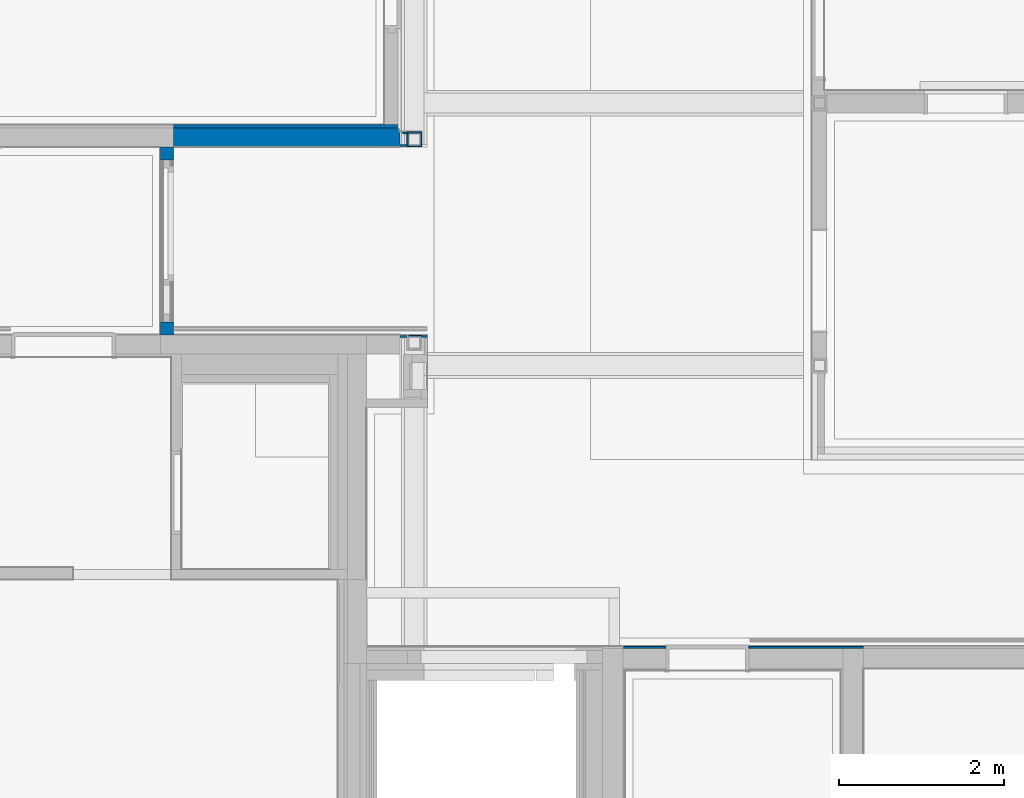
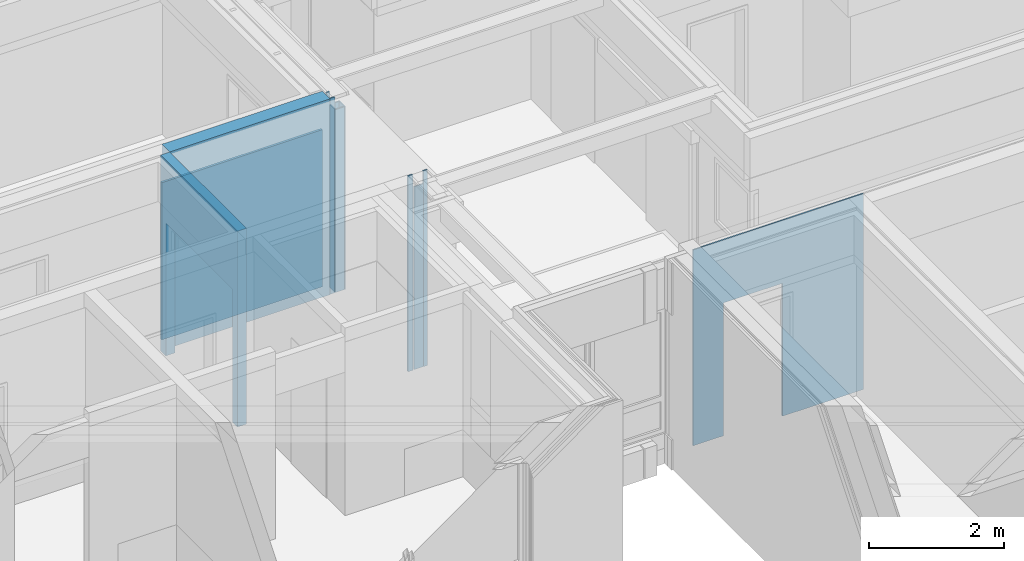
# One storey, part 22 of 222: 13 walls, 2 openings.
"""IFC4 building model written with IfcOpenShell, lengths in metres."""

from ifc_helpers import new_model, entity, si_unit, converted_unit, derived_unit, frame, frame_2d, origin, origin_with_axes, place, context, subcontext, project, spatial, polyline, rectangle, outline, extrude, material, element, save


model = new_model("IFC4")

# Units and contexts
model_context = context("Model", 3, precision=1e-05, world=origin())
body_context = subcontext(model_context, "Body", "Model", "MODEL_VIEW")
ifc_project = project(units=[si_unit("LENGTHUNIT", "METRE"), si_unit("AREAUNIT", "SQUARE_METRE"), si_unit("VOLUMEUNIT", "CUBIC_METRE"), si_unit("MASSUNIT", "GRAM", prefix="KILO"), converted_unit("PLANEANGLEUNIT", "DEGREE", entity("IfcPlaneAngleMeasure", 0.0174532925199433), si_unit("PLANEANGLEUNIT", "RADIAN"), dimensions=[0, 0, 0, 0, 0, 0, 0]), derived_unit("THERMALTRANSMITTANCEUNIT", [(si_unit("POWERUNIT", "WATT"), 1), (si_unit("THERMODYNAMICTEMPERATUREUNIT", "KELVIN"), -1), (si_unit("LENGTHUNIT", "METRE"), -2)]), derived_unit("VOLUMETRICFLOWRATEUNIT", [(si_unit("LENGTHUNIT", "METRE"), 3), (converted_unit("TIMEUNIT", "hour", entity("IfcTimeMeasure", 3600.0), si_unit("TIMEUNIT", "SECOND"), dimensions=[0, 0, 1, 0, 0, 0, 0]), -1), (si_unit("LENGTHUNIT", "METRE"), -1)])], contexts=[model_context])

# Site, building, storey
site_placement = place(None, origin())
site = spatial("IfcSite", under=ifc_project, at=site_placement, Name="Psychiatrie Neubau Wunstorf", CompositionType="ELEMENT")
building_placement = place(site_placement, origin())
building = spatial("IfcBuilding", under=site, at=building_placement, Name="Neubau H2 Stationsgebäude", CompositionType="ELEMENT")
storey_placement = place(building_placement, frame((0.0, 0.0, 3.6)))
storey = spatial("IfcBuildingStorey", under=building, at=storey_placement, Name="H2 Ebene +1", CompositionType="ELEMENT", Elevation=3.6)

# Walls
ifc_material_1 = material(Name="WI-HW 60")
wall_1_placement = place(storey_placement, frame((32.8184999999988, 6.61199999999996, 0.0)))
element("IfcWall", 1, at=wall_1_placement, inside=storey, material=ifc_material_1, context=body_context, shape_type="SweptSolid", body=[
    extrude(rectangle(XDim=2.75150000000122, YDim=0.232, at=frame_2d((1.37575000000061, 0.116), x_axis=(1.0, 0.0))), origin_with_axes(), (0.0, 0.0, 1.0), 3.55),
])
ifc_material_2 = material(Name="WI-LB")
wall_2_placement = place(storey_placement, frame((32.8184999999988, 6.84399999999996, 0.0)))
element("IfcWall", 2, at=wall_2_placement, inside=storey, material=ifc_material_2, context=body_context, shape_type="SweptSolid", body=[
    extrude(rectangle(XDim=2.75150000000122, YDim=0.04, at=frame_2d((1.37575000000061, 0.02), x_axis=(1.0, 0.0))), origin_with_axes(), (0.0, 0.0, 1.0), 2.85),
])
ifc_material_3 = material(Name="WI-PR")
wall_3_placement = place(storey_placement, frame((35.8349950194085, 4.3257496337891, 0.0), z_axis=(0.0, 0.0, 1.0), x_axis=(-1.0, 0.0, 0.0)))
element("IfcWall", 3, at=wall_3_placement, inside=storey, material=ifc_material_3, context=body_context, shape_type="SweptSolid", body=[
    extrude(rectangle(XDim=0.16, YDim=0.02, at=frame_2d((0.08, 0.01), x_axis=(1.0, 0.0))), origin_with_axes(), (0.0, 0.0, 1.0), 3.317),
])
ifc_material_4 = material(Name="WI-LB")
wall_4_placement = place(storey_placement, frame((35.9009950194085, 4.32574963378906, 0.0), z_axis=(0.0, 0.0, 1.0), x_axis=(-1.0, 4.96088019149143e-13, 0.0)))
element("IfcWall", 4, at=wall_4_placement, inside=storey, material=ifc_material_4, context=body_context, shape_type="SweptSolid", body=[
    extrude(rectangle(XDim=0.0659999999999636, YDim=0.025, at=frame_2d((0.0329999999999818, 0.0125), x_axis=(1.0, 0.0))), origin_with_axes(), (0.0, 0.0, 1.0), 3.55),
])
ifc_material_5 = material(Name="WI-LB")
wall_5_placement = place(storey_placement, frame((35.6549950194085, 4.3257496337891, 0.0), z_axis=(0.0, 0.0, 1.0), x_axis=(-1.0, -3.85220328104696e-13, 0.0)))
element("IfcWall", 5, at=wall_5_placement, inside=storey, material=ifc_material_5, context=body_context, shape_type="SweptSolid", body=[
    extrude(rectangle(XDim=0.0849950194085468, YDim=0.025, at=frame_2d((0.0424975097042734, 0.0125), x_axis=(1.0, 0.0))), origin_with_axes(), (0.0, 0.0, 1.0), 3.55),
])
ifc_material_6 = material(Name="WI-PR")
wall_6_placement = place(storey_placement, frame((35.6552396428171, 6.61699999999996, 0.0)))
element("IfcWall", 6, at=wall_6_placement, inside=storey, material=ifc_material_6, context=body_context, shape_type="SweptSolid", body=[
    extrude(rectangle(XDim=0.16, YDim=0.02, at=frame_2d((0.08, 0.01), x_axis=(1.0, 0.0))), origin_with_axes(), (0.0, 0.0, 1.0), 3.317),
])
ifc_material_7 = material(Name="WI-PR")
wall_7_placement = place(storey_placement, frame((35.8352396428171, 6.79699999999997, 0.0), z_axis=(0.0, 0.0, 1.0), x_axis=(-1.0, 0.0, 0.0)))
element("IfcWall", 7, at=wall_7_placement, inside=storey, material=ifc_material_7, context=body_context, shape_type="SweptSolid", body=[
    extrude(rectangle(XDim=0.18, YDim=0.02, at=frame_2d((0.09, 0.01), x_axis=(1.0, 0.0))), origin_with_axes(), (0.0, 0.0, 1.0), 3.317),
])
ifc_material_8 = material(Name="WI-PR")
wall_8_placement = place(storey_placement, frame((35.6552396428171, 6.77699999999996, 0.0), z_axis=(0.0, 0.0, 1.0), x_axis=(0.0, -1.0, 0.0)))
element("IfcWall", 8, at=wall_8_placement, inside=storey, material=ifc_material_8, context=body_context, shape_type="SweptSolid", body=[
    extrude(rectangle(XDim=0.14, YDim=0.02, at=frame_2d((0.07, 0.01), x_axis=(1.0, 0.0))), origin_with_axes(), (0.0, 0.0, 1.0), 3.317),
])
ifc_material_9 = material(Name="WI-PR")
wall_9_placement = place(storey_placement, frame((35.8352396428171, 6.61699999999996, 0.0), z_axis=(0.0, 0.0, 1.0), x_axis=(0.0, 1.0, 0.0)))
element("IfcWall", 9, at=wall_9_placement, inside=storey, material=ifc_material_9, context=body_context, shape_type="SweptSolid", body=[
    extrude(rectangle(XDim=0.16, YDim=0.02, at=frame_2d((0.08, 0.01), x_axis=(1.0, 0.0))), origin_with_axes(), (0.0, 0.0, 1.0), 3.317),
])
ifc_material_10 = material(Name="WI-LB")
wall_10_placement = place(storey_placement, frame((35.5702446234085, 6.61699856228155, 0.0), z_axis=(0.0, 0.0, 1.0), x_axis=(0.999999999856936, 1.69153254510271e-05, 0.0)))
element("IfcWall", 10, at=wall_10_placement, inside=storey, material=ifc_material_10, context=body_context, shape_type="SweptSolid", body=[
    extrude(rectangle(XDim=0.0849950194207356, YDim=0.0249999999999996, at=frame_2d((0.0424975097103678, 0.0124999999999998), x_axis=(1.0, 0.0))), origin_with_axes(), (0.0, 0.0, 1.0), 3.55),
])
ifc_material_11 = material(Name="WI-LB")
wall_11_placement = place(storey_placement, frame((35.6552396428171, 6.79699999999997, 0.0), z_axis=(0.0, 0.0, 1.0), x_axis=(-0.999999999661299, -2.60269317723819e-05, 0.0)))
element("IfcWall", 11, at=wall_11_placement, inside=storey, material=ifc_material_11, context=body_context, shape_type="SweptSolid", body=[
    extrude(rectangle(XDim=0.0552396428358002, YDim=0.0250000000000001, at=frame_2d((0.0276198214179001, 0.0125000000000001), x_axis=(1.0, 0.0))), origin_with_axes(), (0.0, 0.0, 1.0), 3.55),
])

# Wall, opening
ifc_material_12 = material(Name="WI-LB")
wall_12_placement = place(storey_placement, frame((41.2, 0.549, 0.0), z_axis=(0.0, 0.0, 1.0), x_axis=(-1.0, 2.72536939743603e-16, 0.0)))
wall_12 = element("IfcWall", 12, at=wall_12_placement, inside=storey, material=ifc_material_12, context=body_context, shape_type="SweptSolid", body=[
    extrude(rectangle(XDim=2.91999999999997, YDim=0.024, at=frame_2d((1.45999999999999, 0.012), x_axis=(1.0, 0.0))), origin_with_axes(), (0.0, 0.0, 1.0), 3.55),
])
opening_1_placement = place(wall_12_placement, frame((2.39999999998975, 0.024, 0.0), z_axis=(0.0, -1.0, 0.0), x_axis=(0.0, 0.0, 1.0)))
element("IfcOpeningElement", 13, at=opening_1_placement, cuts=wall_12, Name="Türöffnung", ObjectType="Opening", context=body_context, shape_type="SweptSolid", body=[
    extrude(outline(polyline([(2.41, 1.01), (2.41, 0.0), (0.0, 0.0), (0.0, 1.01), (2.41, 1.01)])), origin_with_axes(), (0.0, 0.0, 1.0), 0.024),
])

ifc_material_13 = material(Name="WI-LB")
wall_13_placement = place(storey_placement, frame((32.6634999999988, 6.61199999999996, 0.0), z_axis=(0.0, 0.0, 1.0), x_axis=(0.0, -1.0, 0.0)))
wall_13 = element("IfcWall", 14, at=wall_13_placement, inside=storey, material=ifc_material_13, context=body_context, shape_type="SweptSolid", body=[
    extrude(rectangle(XDim=2.28125036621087, YDim=0.155, at=frame_2d((1.14062518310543, 0.0775), x_axis=(1.0, 0.0))), origin_with_axes(), (0.0, 0.0, 1.0), 3.55),
])
opening_2_placement = place(wall_13_placement, frame((0.15500018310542, 0.0, 0.0), z_axis=(0.0, 1.0, 0.0), x_axis=(0.0, 0.0, 1.0)))
element("IfcOpeningElement", 15, at=opening_2_placement, cuts=wall_13, Name="Türöffnung", ObjectType="Opening", context=body_context, shape_type="SweptSolid", body=[
    extrude(outline(polyline([(2.41, 1.9713), (2.41, 0.0), (0.0, 0.0), (0.0, 1.9713), (2.41, 1.9713)])), origin_with_axes(), (0.0, 0.0, 1.0), 0.154999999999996),
])

save(model, "model.ifc")
